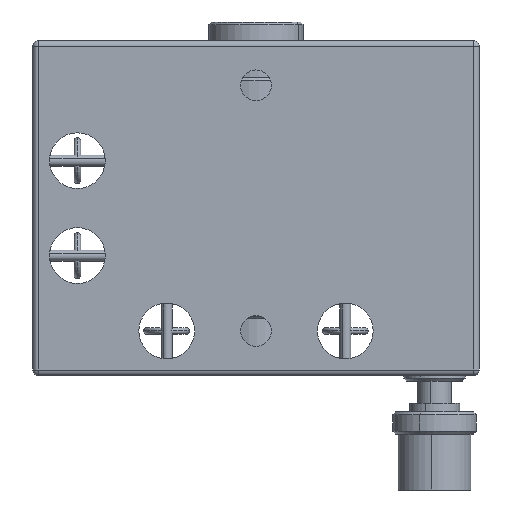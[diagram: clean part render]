
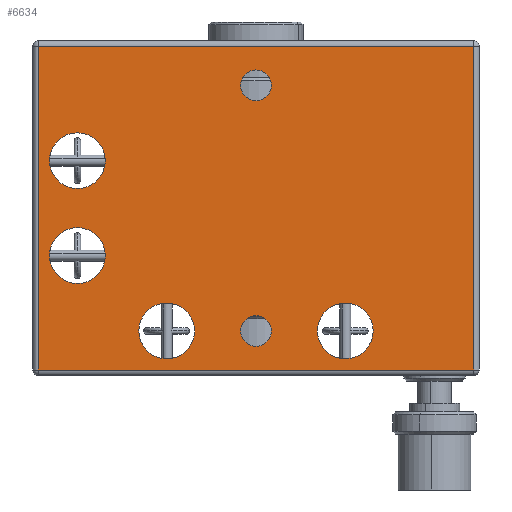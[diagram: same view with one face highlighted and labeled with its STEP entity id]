
A CAD part, front view. The second image highlights one B-rep face of the part: STEP entity #6634.
In plain terms, the highlighted planar face has unit normal (0, -1, 0).
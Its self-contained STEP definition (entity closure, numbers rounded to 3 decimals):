
#41 = DIRECTION ( 'NONE',  ( 0., 1., 0. ) ) ;
#91 = ORIENTED_EDGE ( 'NONE', *, *, #3697, .T. ) ;
#95 = AXIS2_PLACEMENT_3D ( 'NONE', #875, #7079, #1804 ) ;
#148 = DIRECTION ( 'NONE',  ( 1., 0., 0. ) ) ;
#240 = FACE_BOUND ( 'NONE', #7997, .T. ) ;
#271 = CIRCLE ( 'NONE', #5830, 5. ) ;
#788 = CARTESIAN_POINT ( 'NONE',  ( -16., -4.5, -27. ) ) ;
#789 = EDGE_CURVE ( 'NONE', #7447, #2494, #9197, .T. ) ;
#834 = DIRECTION ( 'NONE',  ( 0., 0., 1. ) ) ;
#845 = CARTESIAN_POINT ( 'NONE',  ( 0., -4.5, -24.75 ) ) ;
#860 = VERTEX_POINT ( 'NONE', #10586 ) ;
#875 = CARTESIAN_POINT ( 'NONE',  ( 0., -4.5, -22. ) ) ;
#917 = CIRCLE ( 'NONE', #1224, 5. ) ;
#936 = AXIS2_PLACEMENT_3D ( 'NONE', #8655, #3260, #9584 ) ;
#1069 = CARTESIAN_POINT ( 'NONE',  ( 40., -4.5, -29. ) ) ;
#1224 = AXIS2_PLACEMENT_3D ( 'NONE', #5328, #41, #6245 ) ;
#1333 = EDGE_LOOP ( 'NONE', ( #3371, #4069 ) ) ;
#1428 = AXIS2_PLACEMENT_3D ( 'NONE', #7102, #1825, #8039 ) ;
#1432 = CIRCLE ( 'NONE', #1428, 2.75 ) ;
#1462 = VECTOR ( 'NONE', #148, 1000. ) ;
#1539 = CARTESIAN_POINT ( 'NONE',  ( -32., -4.5, 8.5 ) ) ;
#1560 = LINE ( 'NONE', #10779, #10842 ) ;
#1600 = CARTESIAN_POINT ( 'NONE',  ( -32., -4.5, 13.5 ) ) ;
#1725 = CIRCLE ( 'NONE', #95, 2.75 ) ;
#1800 = VERTEX_POINT ( 'NONE', #3502 ) ;
#1804 = DIRECTION ( 'NONE',  ( 0., 0., 1. ) ) ;
#1819 = CARTESIAN_POINT ( 'NONE',  ( 40., -4.5, 30. ) ) ;
#1825 = DIRECTION ( 'NONE',  ( 0., 1., 0. ) ) ;
#1849 = EDGE_CURVE ( 'NONE', #7638, #7797, #11462, .T. ) ;
#1901 = AXIS2_PLACEMENT_3D ( 'NONE', #7519, #2225, #8429 ) ;
#2120 = ORIENTED_EDGE ( 'NONE', *, *, #10959, .T. ) ;
#2225 = DIRECTION ( 'NONE',  ( 0., 1., 0. ) ) ;
#2396 = CARTESIAN_POINT ( 'NONE',  ( -32., -4.5, 3.5 ) ) ;
#2494 = VERTEX_POINT ( 'NONE', #7937 ) ;
#2559 = CARTESIAN_POINT ( 'NONE',  ( 39., -4.5, 30. ) ) ;
#2624 = FACE_BOUND ( 'NONE', #4848, .T. ) ;
#2678 = FACE_BOUND ( 'NONE', #1333, .T. ) ;
#2720 = EDGE_LOOP ( 'NONE', ( #2120, #6161, #7906, #11653 ) ) ;
#2822 = VERTEX_POINT ( 'NONE', #1600 ) ;
#2823 = AXIS2_PLACEMENT_3D ( 'NONE', #11102, #4624, #10104 ) ;
#2915 = DIRECTION ( 'NONE',  ( 0., 0., 1. ) ) ;
#2932 = DIRECTION ( 'NONE',  ( 0., 1., 0. ) ) ;
#2946 = CARTESIAN_POINT ( 'NONE',  ( -32., -4.5, -8.5 ) ) ;
#3015 = EDGE_LOOP ( 'NONE', ( #5481, #3846 ) ) ;
#3260 = DIRECTION ( 'NONE',  ( 0., 1., 0. ) ) ;
#3319 = AXIS2_PLACEMENT_3D ( 'NONE', #1539, #5057, #6253 ) ;
#3349 = VERTEX_POINT ( 'NONE', #8951 ) ;
#3371 = ORIENTED_EDGE ( 'NONE', *, *, #8954, .T. ) ;
#3443 = AXIS2_PLACEMENT_3D ( 'NONE', #1819, #5626, #834 ) ;
#3502 = CARTESIAN_POINT ( 'NONE',  ( 0., -4.5, 24.75 ) ) ;
#3524 = EDGE_CURVE ( 'NONE', #6962, #11326, #271, .T. ) ;
#3697 = EDGE_CURVE ( 'NONE', #11326, #6962, #5949, .T. ) ;
#3818 = ORIENTED_EDGE ( 'NONE', *, *, #4863, .T. ) ;
#3846 = ORIENTED_EDGE ( 'NONE', *, *, #8766, .T. ) ;
#3848 = CARTESIAN_POINT ( 'NONE',  ( -39., -4.5, 30. ) ) ;
#3887 = DIRECTION ( 'NONE',  ( 0., 0., -1. ) ) ;
#4069 = ORIENTED_EDGE ( 'NONE', *, *, #789, .T. ) ;
#4093 = ORIENTED_EDGE ( 'NONE', *, *, #10881, .T. ) ;
#4288 = DIRECTION ( 'NONE',  ( 0., 1., 0. ) ) ;
#4366 = DIRECTION ( 'NONE',  ( -1., 0., 0. ) ) ;
#4571 = EDGE_LOOP ( 'NONE', ( #9024, #8918 ) ) ;
#4624 = DIRECTION ( 'NONE',  ( 0., 1., 0. ) ) ;
#4776 = AXIS2_PLACEMENT_3D ( 'NONE', #9180, #9198, #9238 ) ;
#4848 = EDGE_LOOP ( 'NONE', ( #11621, #91 ) ) ;
#4863 = EDGE_CURVE ( 'NONE', #860, #6644, #5428, .T. ) ;
#4918 = ORIENTED_EDGE ( 'NONE', *, *, #9376, .T. ) ;
#4928 = FACE_OUTER_BOUND ( 'NONE', #2720, .T. ) ;
#4966 = FACE_BOUND ( 'NONE', #4571, .T. ) ;
#5057 = DIRECTION ( 'NONE',  ( 0., 1., 0. ) ) ;
#5065 = CARTESIAN_POINT ( 'NONE',  ( -16., -4.5, -17. ) ) ;
#5265 = LINE ( 'NONE', #1069, #1462 ) ;
#5328 = CARTESIAN_POINT ( 'NONE',  ( -32., -4.5, 8.5 ) ) ;
#5428 = CIRCLE ( 'NONE', #4776, 5. ) ;
#5481 = ORIENTED_EDGE ( 'NONE', *, *, #7543, .T. ) ;
#5489 = VERTEX_POINT ( 'NONE', #8718 ) ;
#5626 = DIRECTION ( 'NONE',  ( 0., 1., 0. ) ) ;
#5682 = AXIS2_PLACEMENT_3D ( 'NONE', #11638, #11623, #11662 ) ;
#5830 = AXIS2_PLACEMENT_3D ( 'NONE', #9403, #9389, #9365 ) ;
#5949 = CIRCLE ( 'NONE', #5682, 5. ) ;
#6031 = CARTESIAN_POINT ( 'NONE',  ( 0., -4.5, 19.25 ) ) ;
#6132 = CIRCLE ( 'NONE', #6669, 5. ) ;
#6161 = ORIENTED_EDGE ( 'NONE', *, *, #9436, .T. ) ;
#6198 = CIRCLE ( 'NONE', #3319, 5. ) ;
#6245 = DIRECTION ( 'NONE',  ( 0., 0., 1. ) ) ;
#6253 = DIRECTION ( 'NONE',  ( 0., 0., 1. ) ) ;
#6265 = CARTESIAN_POINT ( 'NONE',  ( 0., -4.5, -19.25 ) ) ;
#6421 = PLANE ( 'NONE',  #3443 ) ;
#6457 = CARTESIAN_POINT ( 'NONE',  ( 16., -4.5, -27. ) ) ;
#6634 = ADVANCED_FACE ( 'NONE', ( #4928, #9396, #7113, #4966, #2678, #2624, #240 ), #6421, .F. ) ;
#6644 = VERTEX_POINT ( 'NONE', #6457 ) ;
#6669 = AXIS2_PLACEMENT_3D ( 'NONE', #9775, #4288, #10711 ) ;
#6814 = CIRCLE ( 'NONE', #1901, 5. ) ;
#6822 = EDGE_CURVE ( 'NONE', #9056, #2822, #6198, .T. ) ;
#6831 = VERTEX_POINT ( 'NONE', #6265 ) ;
#6962 = VERTEX_POINT ( 'NONE', #5065 ) ;
#7015 = EDGE_LOOP ( 'NONE', ( #4918, #7752 ) ) ;
#7056 = VERTEX_POINT ( 'NONE', #6031 ) ;
#7079 = DIRECTION ( 'NONE',  ( 0., 1., 0. ) ) ;
#7102 = CARTESIAN_POINT ( 'NONE',  ( 0., -4.5, 22. ) ) ;
#7113 = FACE_BOUND ( 'NONE', #3015, .T. ) ;
#7447 = VERTEX_POINT ( 'NONE', #8769 ) ;
#7519 = CARTESIAN_POINT ( 'NONE',  ( -32., -4.5, -8.5 ) ) ;
#7526 = AXIS2_PLACEMENT_3D ( 'NONE', #2946, #2932, #2915 ) ;
#7543 = EDGE_CURVE ( 'NONE', #6831, #10164, #8056, .T. ) ;
#7638 = VERTEX_POINT ( 'NONE', #10871 ) ;
#7752 = ORIENTED_EDGE ( 'NONE', *, *, #9162, .T. ) ;
#7797 = VERTEX_POINT ( 'NONE', #11246 ) ;
#7821 = CIRCLE ( 'NONE', #936, 2.75 ) ;
#7906 = ORIENTED_EDGE ( 'NONE', *, *, #9779, .T. ) ;
#7937 = CARTESIAN_POINT ( 'NONE',  ( -32., -4.5, -3.5 ) ) ;
#7997 = EDGE_LOOP ( 'NONE', ( #3818, #4093 ) ) ;
#8039 = DIRECTION ( 'NONE',  ( 0., 0., 1. ) ) ;
#8056 = CIRCLE ( 'NONE', #2823, 2.75 ) ;
#8429 = DIRECTION ( 'NONE',  ( 0., 0., 1. ) ) ;
#8642 = EDGE_CURVE ( 'NONE', #2822, #9056, #917, .T. ) ;
#8655 = CARTESIAN_POINT ( 'NONE',  ( 0., -4.5, 22. ) ) ;
#8718 = CARTESIAN_POINT ( 'NONE',  ( 39., -4.5, 29. ) ) ;
#8766 = EDGE_CURVE ( 'NONE', #10164, #6831, #1725, .T. ) ;
#8769 = CARTESIAN_POINT ( 'NONE',  ( -32., -4.5, -13.5 ) ) ;
#8918 = ORIENTED_EDGE ( 'NONE', *, *, #6822, .T. ) ;
#8951 = CARTESIAN_POINT ( 'NONE',  ( 39., -4.5, -29. ) ) ;
#8954 = EDGE_CURVE ( 'NONE', #2494, #7447, #6814, .T. ) ;
#9024 = ORIENTED_EDGE ( 'NONE', *, *, #8642, .T. ) ;
#9056 = VERTEX_POINT ( 'NONE', #2396 ) ;
#9105 = VECTOR ( 'NONE', #10692, 1000. ) ;
#9162 = EDGE_CURVE ( 'NONE', #7056, #1800, #1432, .T. ) ;
#9180 = CARTESIAN_POINT ( 'NONE',  ( 16., -4.5, -22. ) ) ;
#9197 = CIRCLE ( 'NONE', #7526, 5. ) ;
#9198 = DIRECTION ( 'NONE',  ( 0., 1., 0. ) ) ;
#9238 = DIRECTION ( 'NONE',  ( 0., 0., 1. ) ) ;
#9365 = DIRECTION ( 'NONE',  ( 0., 0., 1. ) ) ;
#9376 = EDGE_CURVE ( 'NONE', #1800, #7056, #7821, .T. ) ;
#9389 = DIRECTION ( 'NONE',  ( 0., 1., 0. ) ) ;
#9396 = FACE_BOUND ( 'NONE', #7015, .T. ) ;
#9403 = CARTESIAN_POINT ( 'NONE',  ( -16., -4.5, -22. ) ) ;
#9436 = EDGE_CURVE ( 'NONE', #3349, #5489, #11539, .T. ) ;
#9584 = DIRECTION ( 'NONE',  ( 0., 0., 1. ) ) ;
#9775 = CARTESIAN_POINT ( 'NONE',  ( 16., -4.5, -22. ) ) ;
#9779 = EDGE_CURVE ( 'NONE', #5489, #7638, #1560, .T. ) ;
#10104 = DIRECTION ( 'NONE',  ( 0., 0., 1. ) ) ;
#10164 = VERTEX_POINT ( 'NONE', #845 ) ;
#10586 = CARTESIAN_POINT ( 'NONE',  ( 16., -4.5, -17. ) ) ;
#10692 = DIRECTION ( 'NONE',  ( 0., 0., 1. ) ) ;
#10711 = DIRECTION ( 'NONE',  ( 0., 0., 1. ) ) ;
#10779 = CARTESIAN_POINT ( 'NONE',  ( 40., -4.5, 29. ) ) ;
#10842 = VECTOR ( 'NONE', #4366, 1000. ) ;
#10871 = CARTESIAN_POINT ( 'NONE',  ( -39., -4.5, 29. ) ) ;
#10881 = EDGE_CURVE ( 'NONE', #6644, #860, #6132, .T. ) ;
#10959 = EDGE_CURVE ( 'NONE', #7797, #3349, #5265, .T. ) ;
#11102 = CARTESIAN_POINT ( 'NONE',  ( 0., -4.5, -22. ) ) ;
#11246 = CARTESIAN_POINT ( 'NONE',  ( -39., -4.5, -29. ) ) ;
#11326 = VERTEX_POINT ( 'NONE', #788 ) ;
#11462 = LINE ( 'NONE', #3848, #11575 ) ;
#11539 = LINE ( 'NONE', #2559, #9105 ) ;
#11575 = VECTOR ( 'NONE', #3887, 1000. ) ;
#11621 = ORIENTED_EDGE ( 'NONE', *, *, #3524, .T. ) ;
#11623 = DIRECTION ( 'NONE',  ( 0., 1., 0. ) ) ;
#11638 = CARTESIAN_POINT ( 'NONE',  ( -16., -4.5, -22. ) ) ;
#11653 = ORIENTED_EDGE ( 'NONE', *, *, #1849, .T. ) ;
#11662 = DIRECTION ( 'NONE',  ( 0., 0., 1. ) ) ;
